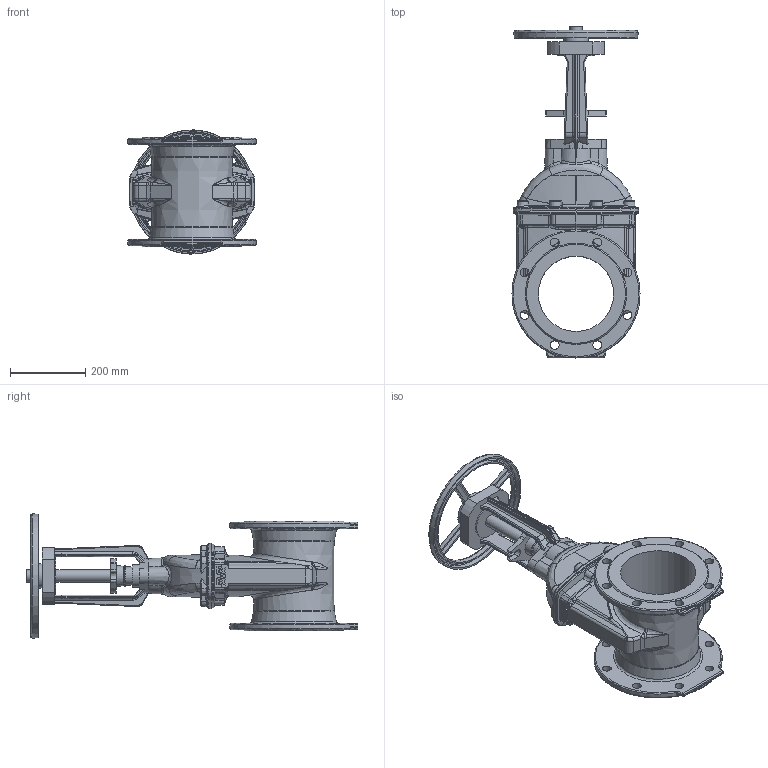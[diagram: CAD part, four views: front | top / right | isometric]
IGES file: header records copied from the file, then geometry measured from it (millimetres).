
Start section: SolidWorks IGES file using analytic representation for surfaces
Global section: file name: \\avksan2\techshare\PBM outline export from Enovia\O_21_34_DN200_40XXXXX close_AA0.igs; native system: SolidWorks 2012; preprocessor: SolidWorks 2012; author: pbm; date: 200212.101505; units: millimetre
Bounding box: 340 x 881.37 x 329.91 mm (x, y, z)
Surface area: 1214593.2 mm2 (no closed solid volume)
Topology: 0 solids, 0 shells, 848 faces, 4410 edges, 4298 vertices
Faces by surface type: revolution 428, bspline 420
